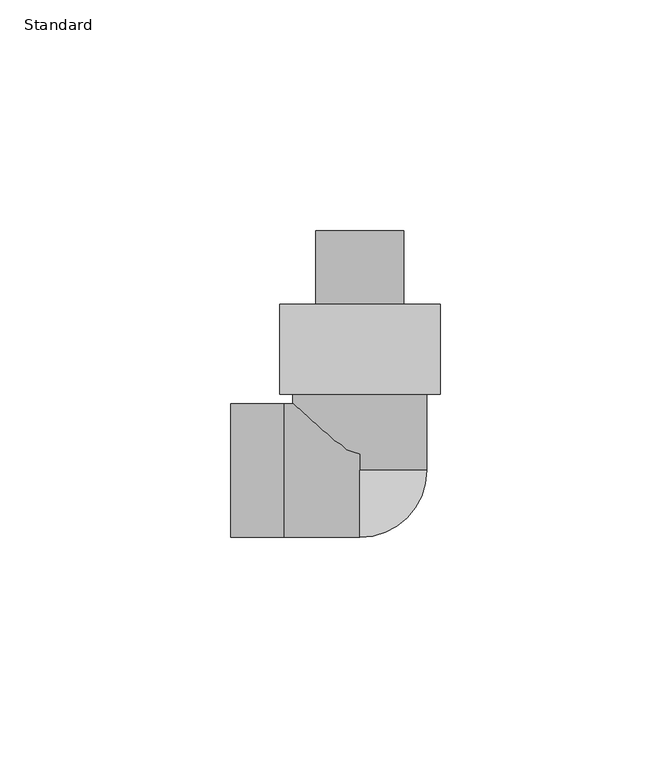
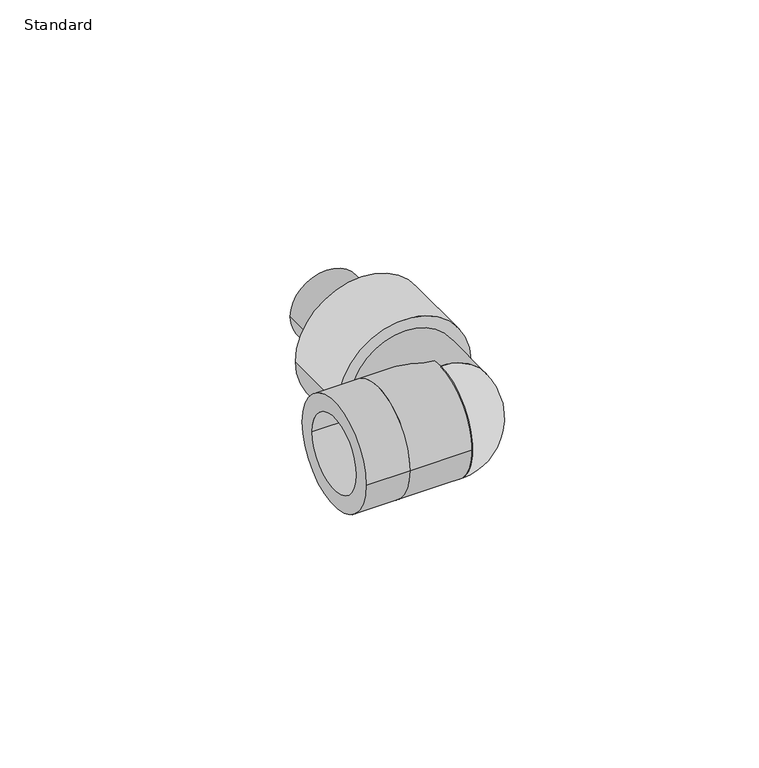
"""IFC4 building model written with IfcOpenShell, lengths in millimetres: pipe fitting geometry, EGB_VASEN_ PPR_Codo rosca macho WXR201 : Standard."""

from ifc_helpers import new_model, si_unit, point, frame, origin, origin_2d, place, context, project, spatial, circle_curve, ellipse_curve, trimmed, segment, composite_curve, outline, extrude, source, transform, mapped, element, save
from ifc_brep_helpers import plane_surface, revolved_surface, advanced_brep


def standard_e150419e(model_context):
    return source(origin(), model_context, "Body", "SolidModel", [
        extrude(outline(composite_curve([segment(trimmed(circle_curve(origin_2d(), 9.525), [point((0.0, 9.525))], [point((0.0, -9.525))], False, "CARTESIAN"), True, "CONTINUOUS"), segment(trimmed(circle_curve(origin_2d(), 9.525), [point((0.0, -9.525))], [point((0.0, 9.525))], False, "CARTESIAN"), True, "CONTINUOUS")], self_intersect=False)), frame((0.0, 16.5, 0.0), z_axis=(0.0, 1.0, 0.0), x_axis=(0.0, 0.0, 1.0)), (0.0, 0.0, 1.0), 35.5),
        advanced_brep(
        [(0.0, 0.0, -14.5), (0.0, 0.0, 14.5)],
        [
            (0, 1, circle_curve(frame((0.0, 0.0, 0.0), z_axis=(-1.0, 0.0, 0.0), x_axis=(0.0, 1.0, 0.0)), 14.5)),
            (1, 0),
            (1, 0, circle_curve(frame((0.0, 0.0, 0.0), z_axis=(0.0, 1.0, 0.0), x_axis=(-1.0, 0.0, 0.0)), 14.5)),
        ],
        [
            plane_surface(frame((0.0, 0.0, 24.5431585), z_axis=(-1.0, 0.0, 0.0), x_axis=(0.0, -1.0, 0.0))),
            plane_surface(frame((0.0, 0.0, 24.5431585), z_axis=(0.0, 1.0, 0.0), x_axis=(1.0, 0.0, 0.0))),
            revolved_surface(trimmed(ellipse_curve(frame((0.0, 0.0, 0.0), z_axis=(1.0, 0.0, 0.0), x_axis=(0.0, 1.0, 0.0)), 14.5, 14.5), [point((0.0, 0.0, 14.5))], [point((0.0, 0.0, -14.5))], True, "CARTESIAN"), (0.0, 0.0, 24.5431585), (0.0, 0.0, -1.0)),
        ],
        [
            (0, [[1, 2]]),
            (1, [[3, -2]]),
            (2, [[-1, -3]]),
        ],
    ),
        extrude(outline(composite_curve([segment(trimmed(circle_curve(origin_2d(), 14.5), [point((-14.5, 0.0))], [point((14.5, 0.0))], False, "CARTESIAN"), True, "CONTINUOUS"), segment(trimmed(circle_curve(origin_2d(), 14.5), [point((14.5, 0.0))], [point((-14.5, 0.0))], False, "CARTESIAN"), True, "CONTINUOUS")], self_intersect=False), holes=[composite_curve([segment(trimmed(circle_curve(origin_2d(), 10.0), [point((-10.0, 0.0))], [point((10.0, 0.0))], True, "CARTESIAN"), True, "CONTINUOUS"), segment(trimmed(circle_curve(origin_2d(), 10.0), [point((10.0, 0.0))], [point((-10.0, 0.0))], True, "CARTESIAN"), True, "CONTINUOUS")], self_intersect=False)]), frame((-28.0, 0.0, 0.0), z_axis=(1.0, 0.0, 0.0), x_axis=(0.0, 1.0, 0.0)), (0.0, 0.0, 1.0), 11.5),
        extrude(outline(composite_curve([segment(trimmed(circle_curve(origin_2d(), 17.4), [point((0.0, 17.4))], [point((0.0, -17.4))], False, "CARTESIAN"), True, "CONTINUOUS"), segment(trimmed(circle_curve(origin_2d(), 17.4), [point((0.0, -17.4))], [point((0.0, 17.4))], False, "CARTESIAN"), True, "CONTINUOUS")], self_intersect=False), holes=[composite_curve([segment(trimmed(circle_curve(origin_2d(), 9.525), [point((0.0, 9.525))], [point((0.0, -9.525))], True, "CARTESIAN"), True, "CONTINUOUS"), segment(trimmed(circle_curve(origin_2d(), 9.525), [point((0.0, -9.525))], [point((0.0, 9.525))], True, "CARTESIAN"), True, "CONTINUOUS")], self_intersect=False)]), frame((0.0, 16.5, 0.0), z_axis=(0.0, 1.0, 0.0), x_axis=(0.0, 0.0, 1.0)), (0.0, 0.0, 1.0), 19.5),
        extrude(outline(composite_curve([segment(trimmed(circle_curve(origin_2d(), 14.5), [point((-14.5, 0.0))], [point((14.5, 0.0))], False, "CARTESIAN"), True, "CONTINUOUS"), segment(trimmed(circle_curve(origin_2d(), 14.5), [point((14.5, 0.0))], [point((-14.5, 0.0))], False, "CARTESIAN"), True, "CONTINUOUS")], self_intersect=False)), frame((-16.5, 0.0, 0.0), z_axis=(1.0, 0.0, 0.0), x_axis=(0.0, 1.0, 0.0)), (0.0, 0.0, 1.0), 16.5),
        extrude(outline(composite_curve([segment(trimmed(circle_curve(origin_2d(), 14.5), [point((0.0, -14.5))], [point((0.0, 14.5))], False, "CARTESIAN"), True, "CONTINUOUS"), segment(trimmed(circle_curve(origin_2d(), 14.5), [point((0.0, 14.5))], [point((0.0, -14.5))], False, "CARTESIAN"), True, "CONTINUOUS")], self_intersect=False)), frame((0.0, 0.0, 0.0), z_axis=(0.0, 1.0, 0.0), x_axis=(0.0, 0.0, 1.0)), (0.0, 0.0, 1.0), 16.5),
    ])


if __name__ == "__main__":
    model = new_model("IFC4")
    model_context = context("Model", 3, world=origin())
    ifc_project = project(units=[si_unit("LENGTHUNIT", "METRE", prefix="MILLI")], contexts=[model_context])
    site = spatial("IfcSite", under=ifc_project)
    building = spatial("IfcBuilding", under=site)
    placement = place(None, origin())
    standard_shape = standard_e150419e(model_context)
    element("IfcPipeFitting", 1, ObjectType="EGB_VASEN_ PPR_Codo rosca macho WXR201 : Standard", at=placement, inside=building, context=model_context, shape_type="MappedRepresentation", body=[
        mapped(standard_shape, transform((0.0, 0.0, 0.0), x_axis=(1.0, 0.0, 0.0), y_axis=(0.0, 1.0, 0.0), z_axis=(0.0, 0.0, 1.0))),
    ])
    save(model, "model.ifc")
